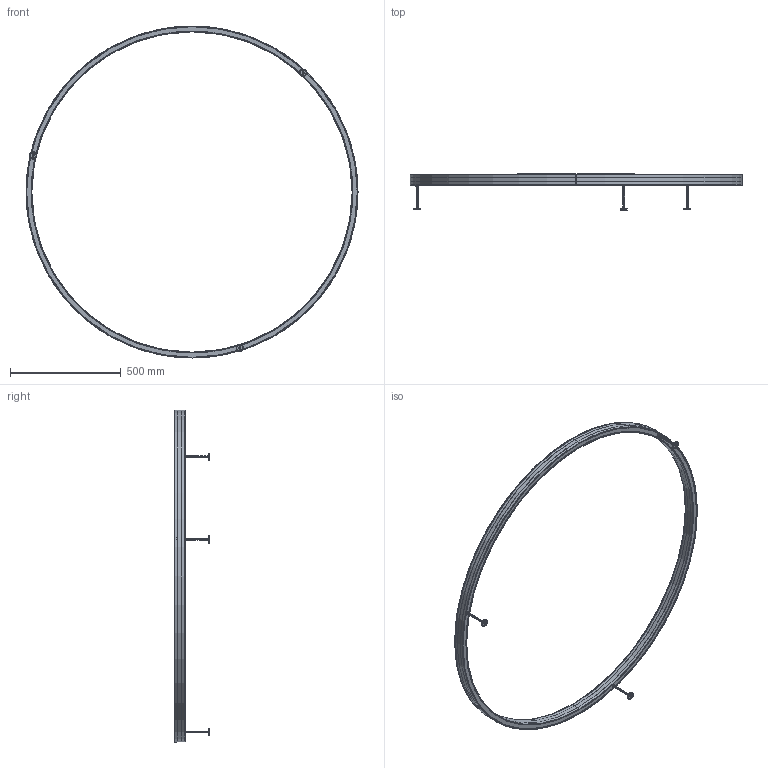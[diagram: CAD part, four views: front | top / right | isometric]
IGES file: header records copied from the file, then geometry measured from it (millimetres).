
Start section: SolidWorks IGES file using analytic representation for surfaces
Global section: file name: L:\Tecnico_PMT\R&D\NEMOstudio\ZIRKOL NEMO\Zirkol wall\3D OK PER RENDER\IGES-STEP\Zirkol C wall 1.5M.IGS; native system: SolidWorks 2016; preprocessor: SolidWorks 2016; author: MartinaCornero; date: 220203.153146; units: millimetre
Bounding box: 1500 x 160.26 x 1500 mm (x, y, z)
Surface area: 1581031.5 mm2 (no closed solid volume)
Topology: 0 solids, 0 shells, 490 faces, 10724 edges, 10724 vertices
Faces by surface type: revolution 314, bspline 176
